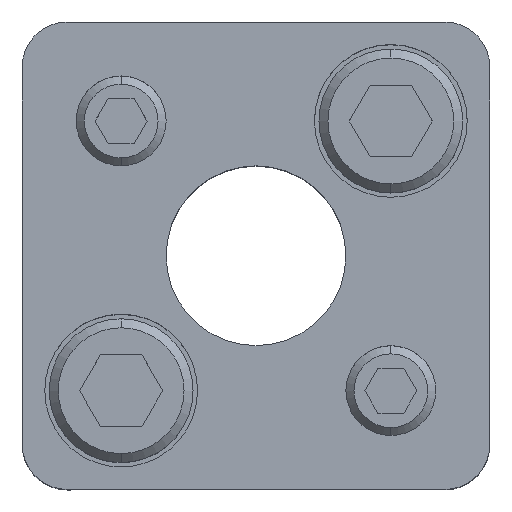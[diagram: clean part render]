
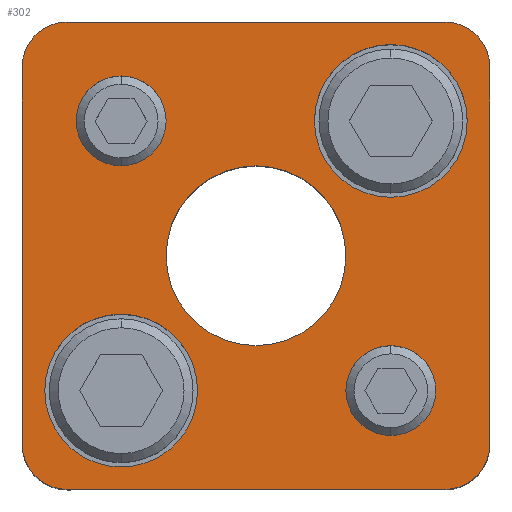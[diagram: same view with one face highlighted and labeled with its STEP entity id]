
A CAD part, top view. The second image highlights one B-rep face of the part: STEP entity #302.
In plain terms, the highlighted planar face has unit normal (0, 0, 1).
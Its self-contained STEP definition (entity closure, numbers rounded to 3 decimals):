
#161=PLANE('',#2460);
#224=FACE_BOUND('',#627,.T.);
#225=FACE_BOUND('',#628,.T.);
#226=FACE_BOUND('',#629,.T.);
#227=FACE_BOUND('',#630,.T.);
#228=FACE_BOUND('',#631,.T.);
#229=FACE_BOUND('',#632,.T.);
#302=ADVANCED_FACE('',(#224,#225,#226,#227,#228,#229),#161,.T.);
#627=EDGE_LOOP('',(#1277,#1278,#1279,#1280,#1281,#1282,#1283,#1284));
#628=EDGE_LOOP('',(#1285,#1286));
#629=EDGE_LOOP('',(#1287,#1288));
#630=EDGE_LOOP('',(#1289,#1290));
#631=EDGE_LOOP('',(#1291,#1292));
#632=EDGE_LOOP('',(#1293,#1294));
#779=LINE('',#3601,#949);
#780=LINE('',#3605,#950);
#781=LINE('',#3609,#951);
#782=LINE('',#3613,#952);
#949=VECTOR('',#2877,1.);
#950=VECTOR('',#2880,1.);
#951=VECTOR('',#2883,1.);
#952=VECTOR('',#2886,1.);
#1277=ORIENTED_EDGE('',*,*,#2005,.T.);
#1278=ORIENTED_EDGE('',*,*,#2006,.T.);
#1279=ORIENTED_EDGE('',*,*,#2007,.T.);
#1280=ORIENTED_EDGE('',*,*,#2008,.T.);
#1281=ORIENTED_EDGE('',*,*,#2009,.T.);
#1282=ORIENTED_EDGE('',*,*,#2010,.T.);
#1283=ORIENTED_EDGE('',*,*,#2011,.T.);
#1284=ORIENTED_EDGE('',*,*,#2012,.T.);
#1285=ORIENTED_EDGE('',*,*,#2013,.F.);
#1286=ORIENTED_EDGE('',*,*,#2014,.F.);
#1287=ORIENTED_EDGE('',*,*,#2015,.F.);
#1288=ORIENTED_EDGE('',*,*,#2016,.F.);
#1289=ORIENTED_EDGE('',*,*,#1991,.F.);
#1290=ORIENTED_EDGE('',*,*,#1987,.F.);
#1291=ORIENTED_EDGE('',*,*,#1985,.F.);
#1292=ORIENTED_EDGE('',*,*,#1981,.F.);
#1293=ORIENTED_EDGE('',*,*,#2017,.T.);
#1294=ORIENTED_EDGE('',*,*,#2018,.T.);
#1755=VERTEX_POINT('',#3549);
#1756=VERTEX_POINT('',#3550);
#1759=VERTEX_POINT('',#3562);
#1760=VERTEX_POINT('',#3563);
#1771=VERTEX_POINT('',#3599);
#1772=VERTEX_POINT('',#3600);
#1773=VERTEX_POINT('',#3602);
#1774=VERTEX_POINT('',#3604);
#1775=VERTEX_POINT('',#3606);
#1776=VERTEX_POINT('',#3608);
#1777=VERTEX_POINT('',#3610);
#1778=VERTEX_POINT('',#3612);
#1779=VERTEX_POINT('',#3615);
#1780=VERTEX_POINT('',#3616);
#1781=VERTEX_POINT('',#3619);
#1782=VERTEX_POINT('',#3620);
#1783=VERTEX_POINT('',#3623);
#1784=VERTEX_POINT('',#3624);
#1981=EDGE_CURVE('',#1755,#1756,#2255,.T.);
#1985=EDGE_CURVE('',#1756,#1755,#2257,.T.);
#1987=EDGE_CURVE('',#1759,#1760,#2259,.T.);
#1991=EDGE_CURVE('',#1760,#1759,#2261,.T.);
#2005=EDGE_CURVE('',#1771,#1772,#2271,.T.);
#2006=EDGE_CURVE('',#1772,#1773,#779,.T.);
#2007=EDGE_CURVE('',#1773,#1774,#2272,.T.);
#2008=EDGE_CURVE('',#1774,#1775,#780,.T.);
#2009=EDGE_CURVE('',#1775,#1776,#2273,.T.);
#2010=EDGE_CURVE('',#1776,#1777,#781,.T.);
#2011=EDGE_CURVE('',#1777,#1778,#2274,.T.);
#2012=EDGE_CURVE('',#1778,#1771,#782,.T.);
#2013=EDGE_CURVE('',#1779,#1780,#2275,.T.);
#2014=EDGE_CURVE('',#1780,#1779,#2276,.T.);
#2015=EDGE_CURVE('',#1781,#1782,#2277,.T.);
#2016=EDGE_CURVE('',#1782,#1781,#2278,.T.);
#2017=EDGE_CURVE('',#1783,#1784,#2279,.T.);
#2018=EDGE_CURVE('',#1784,#1783,#2280,.T.);
#2255=CIRCLE('',#2424,5.);
#2257=CIRCLE('',#2427,5.);
#2259=CIRCLE('',#2431,5.);
#2261=CIRCLE('',#2434,5.);
#2271=CIRCLE('',#2450,5.);
#2272=CIRCLE('',#2451,5.);
#2273=CIRCLE('',#2452,5.);
#2274=CIRCLE('',#2453,5.);
#2275=CIRCLE('',#2454,8.5);
#2276=CIRCLE('',#2455,8.5);
#2277=CIRCLE('',#2456,8.5);
#2278=CIRCLE('',#2457,8.5);
#2279=CIRCLE('',#2458,10.);
#2280=CIRCLE('',#2459,10.);
#2424=AXIS2_PLACEMENT_3D('',#3548,#2815,#2816);
#2427=AXIS2_PLACEMENT_3D('',#3557,#2823,#2824);
#2431=AXIS2_PLACEMENT_3D('',#3561,#2831,#2832);
#2434=AXIS2_PLACEMENT_3D('',#3570,#2839,#2840);
#2450=AXIS2_PLACEMENT_3D('',#3598,#2875,#2876);
#2451=AXIS2_PLACEMENT_3D('',#3603,#2878,#2879);
#2452=AXIS2_PLACEMENT_3D('',#3607,#2881,#2882);
#2453=AXIS2_PLACEMENT_3D('',#3611,#2884,#2885);
#2454=AXIS2_PLACEMENT_3D('',#3614,#2887,#2888);
#2455=AXIS2_PLACEMENT_3D('',#3617,#2889,#2890);
#2456=AXIS2_PLACEMENT_3D('',#3618,#2891,#2892);
#2457=AXIS2_PLACEMENT_3D('',#3621,#2893,#2894);
#2458=AXIS2_PLACEMENT_3D('',#3622,#2895,#2896);
#2459=AXIS2_PLACEMENT_3D('',#3625,#2897,#2898);
#2460=AXIS2_PLACEMENT_3D('',#3626,#2899,#2900);
#2815=DIRECTION('',(0.,0.,1.));
#2816=DIRECTION('',(-1.,0.,0.));
#2823=DIRECTION('',(0.,0.,1.));
#2824=DIRECTION('',(1.,0.,0.));
#2831=DIRECTION('',(0.,0.,1.));
#2832=DIRECTION('',(-1.,0.,0.));
#2839=DIRECTION('',(0.,0.,1.));
#2840=DIRECTION('',(1.,0.,0.));
#2875=DIRECTION('',(0.,0.,1.));
#2876=DIRECTION('',(-0.707,0.707,0.));
#2877=DIRECTION('',(0.,1.,0.));
#2878=DIRECTION('',(0.,0.,1.));
#2879=DIRECTION('',(-0.707,-0.707,0.));
#2880=DIRECTION('',(-1.,0.,0.));
#2881=DIRECTION('',(0.,0.,1.));
#2882=DIRECTION('',(0.707,-0.707,0.));
#2883=DIRECTION('',(0.,-1.,0.));
#2884=DIRECTION('',(0.,0.,1.));
#2885=DIRECTION('',(0.707,0.707,0.));
#2886=DIRECTION('',(1.,0.,0.));
#2887=DIRECTION('',(0.,0.,1.));
#2888=DIRECTION('',(1.,0.,0.));
#2889=DIRECTION('',(0.,0.,1.));
#2890=DIRECTION('',(-1.,0.,0.));
#2891=DIRECTION('',(0.,0.,1.));
#2892=DIRECTION('',(1.,0.,0.));
#2893=DIRECTION('',(0.,0.,1.));
#2894=DIRECTION('',(-1.,0.,0.));
#2895=DIRECTION('',(0.,0.,-1.));
#2896=DIRECTION('',(-1.,0.,0.));
#2897=DIRECTION('',(0.,0.,-1.));
#2898=DIRECTION('',(1.,0.,0.));
#2899=DIRECTION('',(0.,0.,1.));
#2900=DIRECTION('',(-1.,0.,0.));
#3548=CARTESIAN_POINT('',(15.,-15.,35.));
#3549=CARTESIAN_POINT('',(15.,-20.,35.));
#3550=CARTESIAN_POINT('',(15.,-10.,35.));
#3557=CARTESIAN_POINT('',(15.,-15.,35.));
#3561=CARTESIAN_POINT('',(-15.,15.,35.));
#3562=CARTESIAN_POINT('',(-15.,10.,35.));
#3563=CARTESIAN_POINT('',(-15.,20.,35.));
#3570=CARTESIAN_POINT('',(-15.,15.,35.));
#3598=CARTESIAN_POINT('',(21.,-21.,35.));
#3599=CARTESIAN_POINT('',(21.,-26.,35.));
#3600=CARTESIAN_POINT('',(26.,-21.,35.));
#3601=CARTESIAN_POINT('',(26.,21.,35.));
#3602=CARTESIAN_POINT('',(26.,21.,35.));
#3603=CARTESIAN_POINT('',(21.,21.,35.));
#3604=CARTESIAN_POINT('',(21.,26.,35.));
#3605=CARTESIAN_POINT('',(-21.,26.,35.));
#3606=CARTESIAN_POINT('',(-21.,26.,35.));
#3607=CARTESIAN_POINT('',(-21.,21.,35.));
#3608=CARTESIAN_POINT('',(-26.,21.,35.));
#3609=CARTESIAN_POINT('',(-26.,21.,35.));
#3610=CARTESIAN_POINT('',(-26.,-21.,35.));
#3611=CARTESIAN_POINT('',(-21.,-21.,35.));
#3612=CARTESIAN_POINT('',(-21.,-26.,35.));
#3613=CARTESIAN_POINT('',(-21.,-26.,35.));
#3614=CARTESIAN_POINT('',(15.,15.,35.));
#3615=CARTESIAN_POINT('',(15.,23.5,35.));
#3616=CARTESIAN_POINT('',(15.,6.5,35.));
#3617=CARTESIAN_POINT('',(15.,15.,35.));
#3618=CARTESIAN_POINT('',(-15.,-15.,35.));
#3619=CARTESIAN_POINT('',(-15.,-6.5,35.));
#3620=CARTESIAN_POINT('',(-15.,-23.5,35.));
#3621=CARTESIAN_POINT('',(-15.,-15.,35.));
#3622=CARTESIAN_POINT('',(0.,0.,35.));
#3623=CARTESIAN_POINT('',(0.,10.,35.));
#3624=CARTESIAN_POINT('',(0.,-10.,35.));
#3625=CARTESIAN_POINT('',(0.,0.,35.));
#3626=CARTESIAN_POINT('',(21.,-26.,35.));
